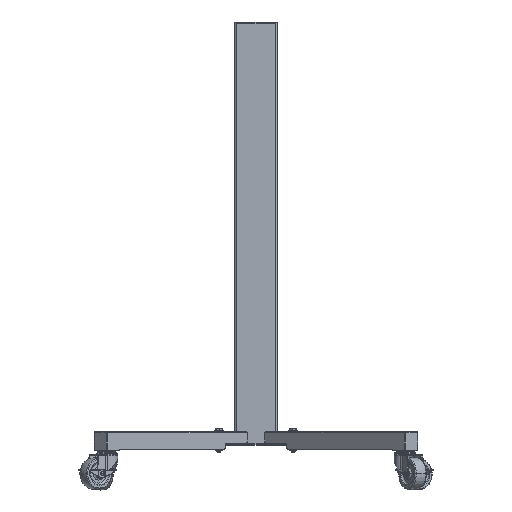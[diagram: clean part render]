
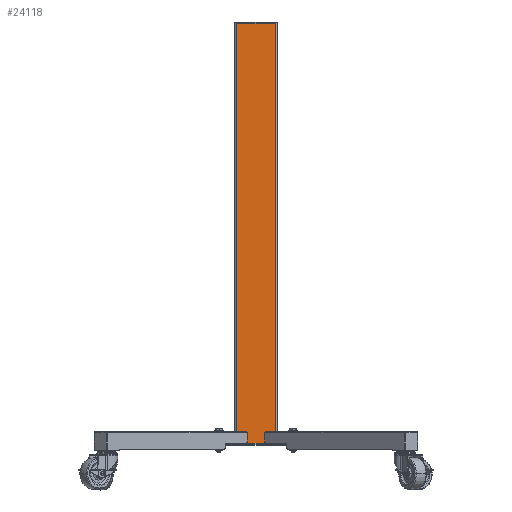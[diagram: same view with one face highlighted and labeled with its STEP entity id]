
A CAD part, top view. The second image highlights one B-rep face of the part: STEP entity #24118.
In plain terms, the highlighted planar face has unit normal (0, 0, 1).
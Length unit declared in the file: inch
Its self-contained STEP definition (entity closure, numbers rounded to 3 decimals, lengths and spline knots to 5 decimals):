
#1687 = ORIENTED_EDGE ( 'NONE', *, *, #25356, .T. ) ;
#1923 = EDGE_LOOP ( 'NONE', ( #17472, #5426, #5260, #1687 ) ) ;
#5260 = ORIENTED_EDGE ( 'NONE', *, *, #13981, .F. ) ;
#5349 = VECTOR ( 'NONE', #17133, 39.37008 ) ;
#5426 = ORIENTED_EDGE ( 'NONE', *, *, #19232, .F. ) ;
#6308 = CARTESIAN_POINT ( 'NONE',  ( -1.81, 39.788, 2. ) ) ;
#6927 = PLANE ( 'NONE',  #8089 ) ;
#8089 = AXIS2_PLACEMENT_3D ( 'NONE', #21090, #23179, #11009 ) ;
#8396 = LINE ( 'NONE', #10058, #18495 ) ;
#10058 = CARTESIAN_POINT ( 'NONE',  ( 1.81, 39.788, 2. ) ) ;
#10378 = VERTEX_POINT ( 'NONE', #18402 ) ;
#11009 = DIRECTION ( 'NONE',  ( -1., 0., 0. ) ) ;
#11371 = LINE ( 'NONE', #13004, #5349 ) ;
#12153 = VERTEX_POINT ( 'NONE', #14548 ) ;
#12182 = LINE ( 'NONE', #23386, #16268 ) ;
#12209 = LINE ( 'NONE', #6308, #23032 ) ;
#13004 = CARTESIAN_POINT ( 'NONE',  ( -1.81, 39.788, 2. ) ) ;
#13981 = EDGE_CURVE ( 'NONE', #12153, #21782, #12209, .T. ) ;
#14436 = DIRECTION ( 'NONE',  ( 1., 0., 0. ) ) ;
#14474 = CARTESIAN_POINT ( 'NONE',  ( 1.81, 39.788, 2. ) ) ;
#14548 = CARTESIAN_POINT ( 'NONE',  ( -1.81, 39.788, 2. ) ) ;
#16268 = VECTOR ( 'NONE', #21285, 39.37008 ) ;
#16309 = VERTEX_POINT ( 'NONE', #20131 ) ;
#17133 = DIRECTION ( 'NONE',  ( 0., -1., 0. ) ) ;
#17472 = ORIENTED_EDGE ( 'NONE', *, *, #18948, .T. ) ;
#18402 = CARTESIAN_POINT ( 'NONE',  ( -1.81, 0.188, 2. ) ) ;
#18495 = VECTOR ( 'NONE', #24257, 39.37008 ) ;
#18948 = EDGE_CURVE ( 'NONE', #10378, #16309, #12182, .T. ) ;
#18994 = FACE_OUTER_BOUND ( 'NONE', #1923, .T. ) ;
#19232 = EDGE_CURVE ( 'NONE', #21782, #16309, #8396, .T. ) ;
#20131 = CARTESIAN_POINT ( 'NONE',  ( 1.81, 0.188, 2. ) ) ;
#21090 = CARTESIAN_POINT ( 'NONE',  ( -1.81, 39.788, 2. ) ) ;
#21285 = DIRECTION ( 'NONE',  ( 1., 0., 0. ) ) ;
#21782 = VERTEX_POINT ( 'NONE', #14474 ) ;
#23032 = VECTOR ( 'NONE', #14436, 39.37008 ) ;
#23179 = DIRECTION ( 'NONE',  ( 0., 0., -1. ) ) ;
#23386 = CARTESIAN_POINT ( 'NONE',  ( -1.81, 0.188, 2. ) ) ;
#24118 = ADVANCED_FACE ( 'NONE', ( #18994 ), #6927, .F. ) ;
#24257 = DIRECTION ( 'NONE',  ( 0., -1., 0. ) ) ;
#25356 = EDGE_CURVE ( 'NONE', #12153, #10378, #11371, .T. ) ;
